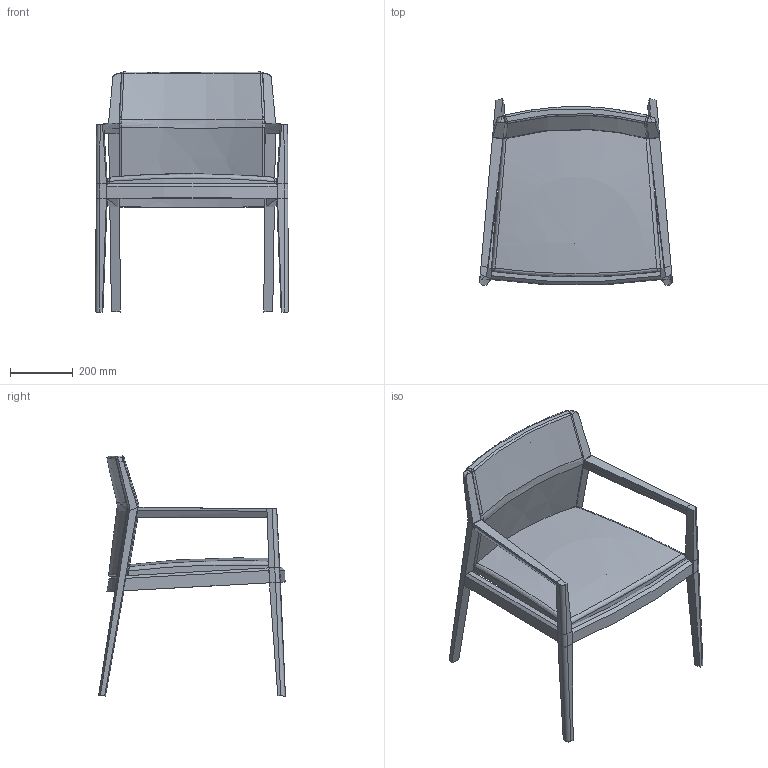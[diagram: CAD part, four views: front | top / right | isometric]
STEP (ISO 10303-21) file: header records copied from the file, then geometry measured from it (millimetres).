
FILE_DESCRIPTION(/* description */ ('','CAx-IF Rec.Pracs.---Representation and Presentation of Product Manufacturing Information (PMI)---4.0---2014-10-13'),/* implementation_level */ '2;1');
FILE_NAME(/* name */ 'Pentero_230-UB.step',/* time_stamp */ '2025-02-18T08:10:56-08:00',/* author */ (''),/* organization */ (''),/* preprocessor_version */ 'ST-DEVELOPER v20',/* originating_system */ 'Autodesk Translation Framework v13.20.0.188',/* authorisation */ '');
FILE_SCHEMA (('AP242_MANAGED_MODEL_BASED_3D_ENGINEERING_MIM_LF { 1 0 10303 442 1 1 4 }'));
Length unit declared in the file: inch
Products named in the file (1): 1
Bounding box: 614.51 x 595.72 x 765.31 mm (x, y, z)
Volume: 20268125.3 mm3; surface area: 1684786.9 mm2
Topology: 12 solids, 13 shells, 233 faces, 572 edges, 359 vertices
Faces by surface type: bspline 105, plane 62, cylinder 57, sphere 9
Full cylindrical faces by diameter (mm): 6 x2, 13.155 x2
Entity records: 10167 total; most frequent: CARTESIAN_POINT 5570, ORIENTED_EDGE 1119, DIRECTION 637, EDGE_CURVE 562, VERTEX_POINT 359, B_SPLINE_CURVE_WITH_KNOTS 241, EDGE_LOOP 239, FACE_OUTER_BOUND 233
